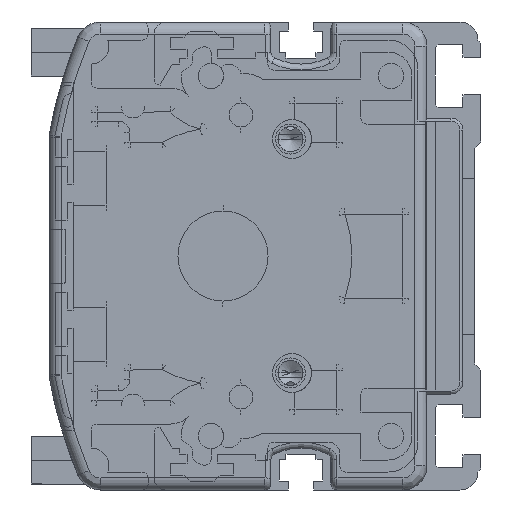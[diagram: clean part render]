
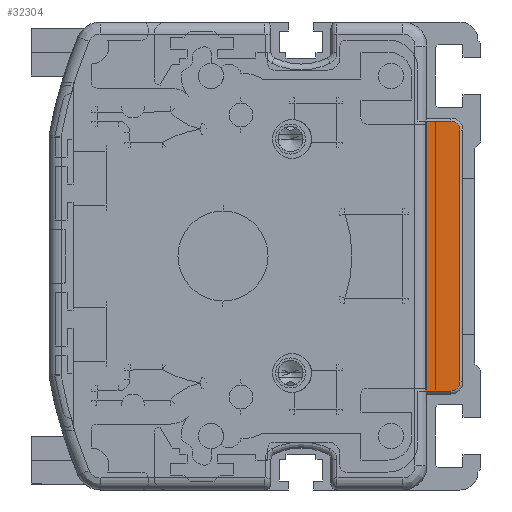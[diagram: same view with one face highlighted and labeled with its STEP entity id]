
A CAD part, left-side view. The second image highlights one B-rep face of the part: STEP entity #32304.
In plain terms, the highlighted planar face has unit normal (-1, 0, 0).
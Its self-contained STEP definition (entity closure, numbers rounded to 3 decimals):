
#26859=DIRECTION('',(0.,0.,-1.));
#26860=VECTOR('',#26859,45.);
#26861=CARTESIAN_POINT('',(-2.,10.268,22.5));
#26862=LINE('',#26861,#26860);
#26894=CARTESIAN_POINT('',(-2.,6.,21.));
#26895=DIRECTION('',(1.,0.,0.));
#26896=DIRECTION('',(0.,0.,1.));
#26897=AXIS2_PLACEMENT_3D('',#26894,#26895,#26896);
#26899=CARTESIAN_POINT('',(-2.,6.,-21.));
#26900=DIRECTION('',(1.,0.,0.));
#26901=DIRECTION('',(0.,-1.,0.));
#26902=AXIS2_PLACEMENT_3D('',#26899,#26900,#26901);
#26908=DIRECTION('',(0.,-1.,0.));
#26909=VECTOR('',#26908,4.268);
#26910=CARTESIAN_POINT('',(-2.,10.268,-22.5));
#26911=LINE('',#26910,#26909);
#27442=DIRECTION('',(0.,0.,1.));
#27443=VECTOR('',#27442,42.);
#27444=CARTESIAN_POINT('',(-2.,4.5,-21.));
#27445=LINE('',#27444,#27443);
#27465=DIRECTION('',(0.,1.,0.));
#27466=VECTOR('',#27465,4.268);
#27467=CARTESIAN_POINT('',(-2.,6.,22.5));
#27468=LINE('',#27467,#27466);
#30751=CARTESIAN_POINT('',(-2.,10.268,22.5));
#30752=CARTESIAN_POINT('',(-2.,10.268,-22.5));
#30753=VERTEX_POINT('',#30751);
#30754=VERTEX_POINT('',#30752);
#30764=CARTESIAN_POINT('',(-2.,6.,-22.5));
#30765=VERTEX_POINT('',#30764);
#30766=CARTESIAN_POINT('',(-2.,4.5,-21.));
#30767=VERTEX_POINT('',#30766);
#30768=CARTESIAN_POINT('',(-2.,4.5,21.));
#30769=VERTEX_POINT('',#30768);
#30770=CARTESIAN_POINT('',(-2.,6.,
22.5));
#30771=VERTEX_POINT('',#30770);
#32286=CARTESIAN_POINT('',(-2.,7.384,0.));
#32287=DIRECTION('',(1.,0.,0.));
#32288=DIRECTION('',(0.,0.,-1.));
#32289=AXIS2_PLACEMENT_3D('',#32286,#32287,#32288);
#32290=PLANE('',#32289);
#32292=ORIENTED_EDGE('',*,*,#32291,.F.);
#32293=ORIENTED_EDGE('',*,*,#32265,.F.);
#32295=ORIENTED_EDGE('',*,*,#32294,.F.);
#32297=ORIENTED_EDGE('',*,*,#32296,.T.);
#32299=ORIENTED_EDGE('',*,*,#32298,.F.);
#32301=ORIENTED_EDGE('',*,*,#32300,.T.);
#32302=EDGE_LOOP('',(#32292,#32293,#32295,#32297,#32299,#32301));
#32303=FACE_OUTER_BOUND('',#32302,.F.);
#32304=ADVANCED_FACE('',(#32303),#32290,.F.);
#26898=CIRCLE('',#26897,1.5);
#26903=CIRCLE('',#26902,1.5);
#32265=EDGE_CURVE('',#30753,#30754,#26862,.T.);
#32291=EDGE_CURVE('',#30754,#30765,#26911,.T.);
#32294=EDGE_CURVE('',#30771,#30753,#27468,.T.);
#32296=EDGE_CURVE('',#30771,#30769,#26898,.T.);
#32298=EDGE_CURVE('',#30767,#30769,#27445,.T.);
#32300=EDGE_CURVE('',#30767,#30765,#26903,.T.);
